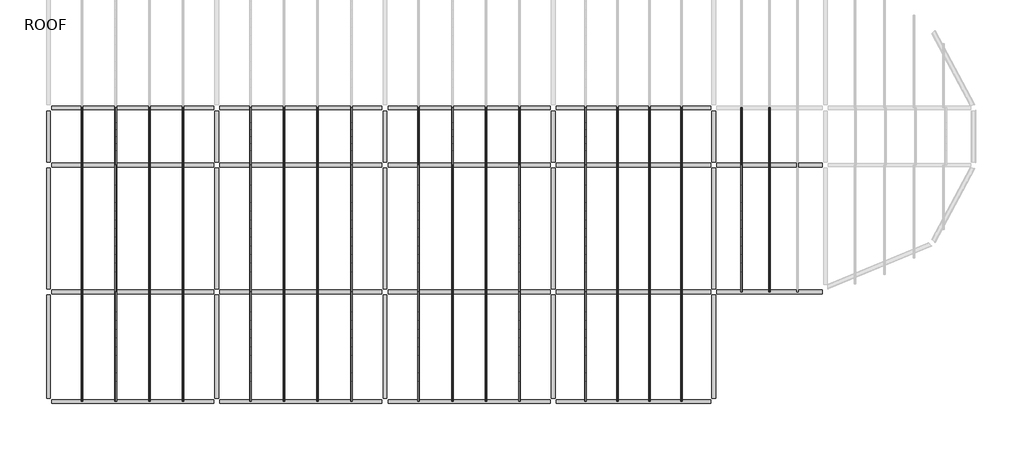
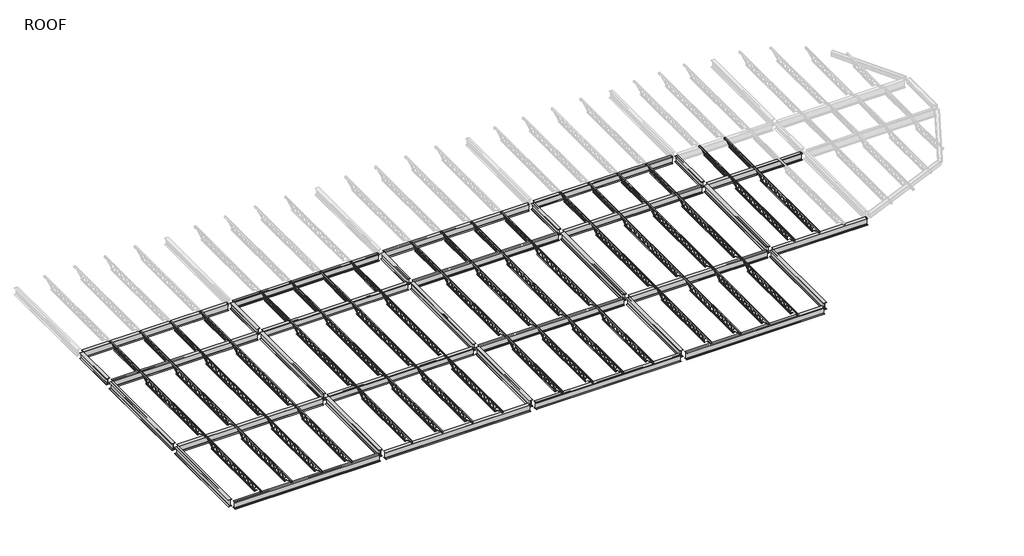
# One storey, part 1 of 2: 85 beams.
"""IFC4 building model written with IfcOpenShell, lengths in millimetres."""

from ifc_helpers import new_model, si_unit, origin, place, context, project, spatial, transform, mapped, element, save
from components import k_series_bar_joist_angle_web_10k1_3bfde562, k_series_bar_joist_angle_web_14k6_e2c2b74f, k_series_bar_joist_angle_web_14k6_a55206d5, w_shapes_w12x26_ac08b433, w_shapes_w14x30_2b5df836, w_shapes_w14x30_7cdcd298, w_shapes_w14x30_aa676985, w_shapes_w14x30_0fa609c7, w_shapes_w14x30_0dffa004

model = new_model("IFC4")

# Units and contexts
model_context = context("Model", 3, world=origin())
ifc_project = project(units=[si_unit("LENGTHUNIT", "METRE", prefix="MILLI")], contexts=[model_context])

# Site, building, storey
site = spatial("IfcSite", under=ifc_project)
building = spatial("IfcBuilding", under=site)
storey = spatial("IfcBuildingStorey", under=building, Name="ROOF", Elevation=18288.0)

# Beams
placement = place(None, origin())
k_series_bar_joist_angle_web_10k1_shape = k_series_bar_joist_angle_web_10k1_3bfde562(model_context)
element("IfcBeam", 1, ObjectType="K-Series Bar Joist-Angle Web : 10K1", at=placement, inside=storey, context=model_context, shape_type="MappedRepresentation", body=[
    mapped(k_series_bar_joist_angle_web_10k1_shape, transform((-11146.6535279, -2505.8101681, 18161.0), x_axis=(0.0, -1.0, 0.0), y_axis=(1.0, 0.0, 0.0), z_axis=(0.0, 0.0, 1.0))),
])
element("IfcBeam", 2, ObjectType="K-Series Bar Joist-Angle Web : 10K1", at=placement, inside=storey, context=model_context, shape_type="MappedRepresentation", body=[
    mapped(k_series_bar_joist_angle_web_10k1_shape, transform((-12670.6535279, -2505.8101681, 18161.0), x_axis=(0.0, -1.0, 0.0), y_axis=(1.0, 0.0, 0.0), z_axis=(0.0, 0.0, 1.0))),
])
element("IfcBeam", 3, ObjectType="K-Series Bar Joist-Angle Web : 10K1", at=placement, inside=storey, context=model_context, shape_type="MappedRepresentation", body=[
    mapped(k_series_bar_joist_angle_web_10k1_shape, transform((-14194.6535279, -2505.8101681, 18161.0), x_axis=(0.0, -1.0, 0.0), y_axis=(1.0, 0.0, 0.0), z_axis=(0.0, 0.0, 1.0))),
])
element("IfcBeam", 4, ObjectType="K-Series Bar Joist-Angle Web : 10K1", at=placement, inside=storey, context=model_context, shape_type="MappedRepresentation", body=[
    mapped(k_series_bar_joist_angle_web_10k1_shape, transform((-15718.6535279, -2505.8101681, 18161.0), x_axis=(0.0, -1.0, 0.0), y_axis=(1.0, 0.0, 0.0), z_axis=(0.0, 0.0, 1.0))),
])
element("IfcBeam", 5, ObjectType="K-Series Bar Joist-Angle Web : 10K1", at=placement, inside=storey, context=model_context, shape_type="MappedRepresentation", body=[
    mapped(k_series_bar_joist_angle_web_10k1_shape, transform((-3526.6535279, -2505.8101681, 18161.0), x_axis=(0.0, -1.0, 0.0), y_axis=(1.0, 0.0, 0.0), z_axis=(0.0, 0.0, 1.0))),
])
element("IfcBeam", 6, ObjectType="K-Series Bar Joist-Angle Web : 10K1", at=placement, inside=storey, context=model_context, shape_type="MappedRepresentation", body=[
    mapped(k_series_bar_joist_angle_web_10k1_shape, transform((-5050.6535279, -2505.8101681, 18161.0), x_axis=(0.0, -1.0, 0.0), y_axis=(1.0, 0.0, 0.0), z_axis=(0.0, 0.0, 1.0))),
])
element("IfcBeam", 7, ObjectType="K-Series Bar Joist-Angle Web : 10K1", at=placement, inside=storey, context=model_context, shape_type="MappedRepresentation", body=[
    mapped(k_series_bar_joist_angle_web_10k1_shape, transform((-6574.6535279, -2505.8101681, 18161.0), x_axis=(0.0, -1.0, 0.0), y_axis=(1.0, 0.0, 0.0), z_axis=(0.0, 0.0, 1.0))),
])
element("IfcBeam", 8, ObjectType="K-Series Bar Joist-Angle Web : 10K1", at=placement, inside=storey, context=model_context, shape_type="MappedRepresentation", body=[
    mapped(k_series_bar_joist_angle_web_10k1_shape, transform((-8098.6535279, -2505.8101681, 18161.0), x_axis=(0.0, -1.0, 0.0), y_axis=(1.0, 0.0, 0.0), z_axis=(0.0, 0.0, 1.0))),
])
element("IfcBeam", 9, ObjectType="K-Series Bar Joist-Angle Web : 10K1", at=placement, inside=storey, context=model_context, shape_type="MappedRepresentation", body=[
    mapped(k_series_bar_joist_angle_web_10k1_shape, transform((4093.3464721, -2505.8101681, 18161.0), x_axis=(0.0, -1.0, 0.0), y_axis=(1.0, 0.0, 0.0), z_axis=(0.0, 0.0, 1.0))),
])
element("IfcBeam", 10, ObjectType="K-Series Bar Joist-Angle Web : 10K1", at=placement, inside=storey, context=model_context, shape_type="MappedRepresentation", body=[
    mapped(k_series_bar_joist_angle_web_10k1_shape, transform((2569.3464721, -2505.8101681, 18161.0), x_axis=(0.0, -1.0, 0.0), y_axis=(1.0, 0.0, 0.0), z_axis=(0.0, 0.0, 1.0))),
])
element("IfcBeam", 11, ObjectType="K-Series Bar Joist-Angle Web : 10K1", at=placement, inside=storey, context=model_context, shape_type="MappedRepresentation", body=[
    mapped(k_series_bar_joist_angle_web_10k1_shape, transform((1045.3464721, -2505.8101681, 18161.0), x_axis=(0.0, -1.0, 0.0), y_axis=(1.0, 0.0, 0.0), z_axis=(0.0, 0.0, 1.0))),
])
element("IfcBeam", 12, ObjectType="K-Series Bar Joist-Angle Web : 10K1", at=placement, inside=storey, context=model_context, shape_type="MappedRepresentation", body=[
    mapped(k_series_bar_joist_angle_web_10k1_shape, transform((-478.6535279, -2505.8101681, 18161.0), x_axis=(0.0, -1.0, 0.0), y_axis=(1.0, 0.0, 0.0), z_axis=(0.0, 0.0, 1.0))),
])
element("IfcBeam", 13, ObjectType="K-Series Bar Joist-Angle Web : 10K1", at=placement, inside=storey, context=model_context, shape_type="MappedRepresentation", body=[
    mapped(k_series_bar_joist_angle_web_10k1_shape, transform((11431.4064721, -2505.8101681, 18161.0), x_axis=(0.0, -1.0, 0.0), y_axis=(1.0, 0.0, 0.0), z_axis=(0.0, 0.0, 1.0))),
])
element("IfcBeam", 14, ObjectType="K-Series Bar Joist-Angle Web : 10K1", at=placement, inside=storey, context=model_context, shape_type="MappedRepresentation", body=[
    mapped(k_series_bar_joist_angle_web_10k1_shape, transform((9977.8914721, -2505.8101681, 18161.0), x_axis=(0.0, -1.0, 0.0), y_axis=(1.0, 0.0, 0.0), z_axis=(0.0, 0.0, 1.0))),
])
element("IfcBeam", 15, ObjectType="K-Series Bar Joist-Angle Web : 10K1", at=placement, inside=storey, context=model_context, shape_type="MappedRepresentation", body=[
    mapped(k_series_bar_joist_angle_web_10k1_shape, transform((8524.3764721, -2505.8101681, 18161.0), x_axis=(0.0, -1.0, 0.0), y_axis=(1.0, 0.0, 0.0), z_axis=(0.0, 0.0, 1.0))),
])
element("IfcBeam", 16, ObjectType="K-Series Bar Joist-Angle Web : 10K1", at=placement, inside=storey, context=model_context, shape_type="MappedRepresentation", body=[
    mapped(k_series_bar_joist_angle_web_10k1_shape, transform((7070.8614721, -2505.8101681, 18161.0), x_axis=(0.0, -1.0, 0.0), y_axis=(1.0, 0.0, 0.0), z_axis=(0.0, 0.0, 1.0))),
])
element("IfcBeam", 17, ObjectType="K-Series Bar Joist-Angle Web : 10K1", at=placement, inside=storey, context=model_context, shape_type="MappedRepresentation", body=[
    mapped(k_series_bar_joist_angle_web_10k1_shape, transform((15411.4277221, -2505.8101681, 18161.0), x_axis=(0.0, -1.0, 0.0), y_axis=(1.0, 0.0, 0.0), z_axis=(0.0, 0.0, 1.0))),
])
element("IfcBeam", 18, ObjectType="K-Series Bar Joist-Angle Web : 10K1", at=placement, inside=storey, context=model_context, shape_type="MappedRepresentation", body=[
    mapped(k_series_bar_joist_angle_web_10k1_shape, transform((14148.1745971, -2505.8101681, 18161.0), x_axis=(0.0, -1.0, 0.0), y_axis=(1.0, 0.0, 0.0), z_axis=(0.0, 0.0, 1.0))),
])
k_series_bar_joist_angle_web_14k6_shape = k_series_bar_joist_angle_web_14k6_e2c2b74f(model_context)
element("IfcBeam", 19, ObjectType="K-Series Bar Joist-Angle Web : 14K6", at=placement, inside=storey, context=model_context, shape_type="MappedRepresentation", body=[
    mapped(k_series_bar_joist_angle_web_14k6_shape, transform((-11146.6535279, -12033.9851681, 18110.2), x_axis=(0.0, -1.0, 0.0), y_axis=(1.0, 0.0, 0.0), z_axis=(0.0, 0.0, 1.0))),
])
element("IfcBeam", 20, ObjectType="K-Series Bar Joist-Angle Web : 14K6", at=placement, inside=storey, context=model_context, shape_type="MappedRepresentation", body=[
    mapped(k_series_bar_joist_angle_web_14k6_shape, transform((-12670.6535279, -12033.9851681, 18110.2), x_axis=(0.0, -1.0, 0.0), y_axis=(1.0, 0.0, 0.0), z_axis=(0.0, 0.0, 1.0))),
])
element("IfcBeam", 21, ObjectType="K-Series Bar Joist-Angle Web : 14K6", at=placement, inside=storey, context=model_context, shape_type="MappedRepresentation", body=[
    mapped(k_series_bar_joist_angle_web_14k6_shape, transform((-14194.6535279, -12033.9851681, 18110.2), x_axis=(0.0, -1.0, 0.0), y_axis=(1.0, 0.0, 0.0), z_axis=(0.0, 0.0, 1.0))),
])
element("IfcBeam", 22, ObjectType="K-Series Bar Joist-Angle Web : 14K6", at=placement, inside=storey, context=model_context, shape_type="MappedRepresentation", body=[
    mapped(k_series_bar_joist_angle_web_14k6_shape, transform((-15718.6535279, -12033.9851681, 18110.2), x_axis=(0.0, -1.0, 0.0), y_axis=(1.0, 0.0, 0.0), z_axis=(0.0, 0.0, 1.0))),
])
element("IfcBeam", 23, ObjectType="K-Series Bar Joist-Angle Web : 14K6", at=placement, inside=storey, context=model_context, shape_type="MappedRepresentation", body=[
    mapped(k_series_bar_joist_angle_web_14k6_shape, transform((-3526.6535279, -12033.9851681, 18110.2), x_axis=(0.0, -1.0, 0.0), y_axis=(1.0, 0.0, 0.0), z_axis=(0.0, 0.0, 1.0))),
])
element("IfcBeam", 24, ObjectType="K-Series Bar Joist-Angle Web : 14K6", at=placement, inside=storey, context=model_context, shape_type="MappedRepresentation", body=[
    mapped(k_series_bar_joist_angle_web_14k6_shape, transform((-5050.6535279, -12033.9851681, 18110.2), x_axis=(0.0, -1.0, 0.0), y_axis=(1.0, 0.0, 0.0), z_axis=(0.0, 0.0, 1.0))),
])
element("IfcBeam", 25, ObjectType="K-Series Bar Joist-Angle Web : 14K6", at=placement, inside=storey, context=model_context, shape_type="MappedRepresentation", body=[
    mapped(k_series_bar_joist_angle_web_14k6_shape, transform((-6574.6535279, -12033.9851681, 18110.2), x_axis=(0.0, -1.0, 0.0), y_axis=(1.0, 0.0, 0.0), z_axis=(0.0, 0.0, 1.0))),
])
element("IfcBeam", 26, ObjectType="K-Series Bar Joist-Angle Web : 14K6", at=placement, inside=storey, context=model_context, shape_type="MappedRepresentation", body=[
    mapped(k_series_bar_joist_angle_web_14k6_shape, transform((-8098.6535279, -12033.9851681, 18110.2), x_axis=(0.0, -1.0, 0.0), y_axis=(1.0, 0.0, 0.0), z_axis=(0.0, 0.0, 1.0))),
])
element("IfcBeam", 27, ObjectType="K-Series Bar Joist-Angle Web : 14K6", at=placement, inside=storey, context=model_context, shape_type="MappedRepresentation", body=[
    mapped(k_series_bar_joist_angle_web_14k6_shape, transform((-478.6535279, -12033.9851681, 18110.2), x_axis=(0.0, 1.0, 0.0), y_axis=(-1.0, 0.0, 0.0), z_axis=(0.0, 0.0, 1.0))),
])
element("IfcBeam", 28, ObjectType="K-Series Bar Joist-Angle Web : 14K6", at=placement, inside=storey, context=model_context, shape_type="MappedRepresentation", body=[
    mapped(k_series_bar_joist_angle_web_14k6_shape, transform((1045.3464721, -12033.9851681, 18110.2), x_axis=(0.0, 1.0, 0.0), y_axis=(-1.0, 0.0, 0.0), z_axis=(0.0, 0.0, 1.0))),
])
element("IfcBeam", 29, ObjectType="K-Series Bar Joist-Angle Web : 14K6", at=placement, inside=storey, context=model_context, shape_type="MappedRepresentation", body=[
    mapped(k_series_bar_joist_angle_web_14k6_shape, transform((2569.3464721, -12033.9851681, 18110.2), x_axis=(0.0, 1.0, 0.0), y_axis=(-1.0, 0.0, 0.0), z_axis=(0.0, 0.0, 1.0))),
])
element("IfcBeam", 30, ObjectType="K-Series Bar Joist-Angle Web : 14K6", at=placement, inside=storey, context=model_context, shape_type="MappedRepresentation", body=[
    mapped(k_series_bar_joist_angle_web_14k6_shape, transform((4093.3464721, -12033.9851681, 18110.2), x_axis=(0.0, 1.0, 0.0), y_axis=(-1.0, 0.0, 0.0), z_axis=(0.0, 0.0, 1.0))),
])
element("IfcBeam", 31, ObjectType="K-Series Bar Joist-Angle Web : 14K6", at=placement, inside=storey, context=model_context, shape_type="MappedRepresentation", body=[
    mapped(k_series_bar_joist_angle_web_14k6_shape, transform((11431.4064721, -12033.9851681, 18110.2), x_axis=(0.0, -1.0, 0.0), y_axis=(1.0, 0.0, 0.0), z_axis=(0.0, 0.0, 1.0))),
])
element("IfcBeam", 32, ObjectType="K-Series Bar Joist-Angle Web : 14K6", at=placement, inside=storey, context=model_context, shape_type="MappedRepresentation", body=[
    mapped(k_series_bar_joist_angle_web_14k6_shape, transform((9977.8914721, -12033.9851681, 18110.2), x_axis=(0.0, -1.0, 0.0), y_axis=(1.0, 0.0, 0.0), z_axis=(0.0, 0.0, 1.0))),
])
element("IfcBeam", 33, ObjectType="K-Series Bar Joist-Angle Web : 14K6", at=placement, inside=storey, context=model_context, shape_type="MappedRepresentation", body=[
    mapped(k_series_bar_joist_angle_web_14k6_shape, transform((8524.3764721, -12033.9851681, 18110.2), x_axis=(0.0, -1.0, 0.0), y_axis=(1.0, 0.0, 0.0), z_axis=(0.0, 0.0, 1.0))),
])
element("IfcBeam", 34, ObjectType="K-Series Bar Joist-Angle Web : 14K6", at=placement, inside=storey, context=model_context, shape_type="MappedRepresentation", body=[
    mapped(k_series_bar_joist_angle_web_14k6_shape, transform((7070.8614721, -12033.9851681, 18110.2), x_axis=(0.0, -1.0, 0.0), y_axis=(1.0, 0.0, 0.0), z_axis=(0.0, 0.0, 1.0))),
])
k_series_bar_joist_angle_web_14k6_2_shape = k_series_bar_joist_angle_web_14k6_a55206d5(model_context)
element("IfcBeam", 35, ObjectType="K-Series Bar Joist-Angle Web : 14K6", at=placement, inside=storey, context=model_context, shape_type="MappedRepresentation", body=[
    mapped(k_series_bar_joist_angle_web_14k6_2_shape, transform((11431.4064721, -6674.5851681, 18110.2), x_axis=(0.0, -1.0, 0.0), y_axis=(1.0, 0.0, 0.0), z_axis=(0.0, 0.0, 1.0))),
])
element("IfcBeam", 36, ObjectType="K-Series Bar Joist-Angle Web : 14K6", at=placement, inside=storey, context=model_context, shape_type="MappedRepresentation", body=[
    mapped(k_series_bar_joist_angle_web_14k6_2_shape, transform((9977.8914721, -6674.5851681, 18110.2), x_axis=(0.0, -1.0, 0.0), y_axis=(1.0, 0.0, 0.0), z_axis=(0.0, 0.0, 1.0))),
])
element("IfcBeam", 37, ObjectType="K-Series Bar Joist-Angle Web : 14K6", at=placement, inside=storey, context=model_context, shape_type="MappedRepresentation", body=[
    mapped(k_series_bar_joist_angle_web_14k6_2_shape, transform((8524.3764721, -6674.5851681, 18110.2), x_axis=(0.0, -1.0, 0.0), y_axis=(1.0, 0.0, 0.0), z_axis=(0.0, 0.0, 1.0))),
])
element("IfcBeam", 38, ObjectType="K-Series Bar Joist-Angle Web : 14K6", at=placement, inside=storey, context=model_context, shape_type="MappedRepresentation", body=[
    mapped(k_series_bar_joist_angle_web_14k6_2_shape, transform((7070.8614721, -6674.5851681, 18110.2), x_axis=(0.0, -1.0, 0.0), y_axis=(1.0, 0.0, 0.0), z_axis=(0.0, 0.0, 1.0))),
])
element("IfcBeam", 39, ObjectType="K-Series Bar Joist-Angle Web : 14K6", at=placement, inside=storey, context=model_context, shape_type="MappedRepresentation", body=[
    mapped(k_series_bar_joist_angle_web_14k6_2_shape, transform((-478.6535279, -6674.5851681, 18110.2), x_axis=(0.0, 1.0, 0.0), y_axis=(-1.0, 0.0, 0.0), z_axis=(0.0, 0.0, 1.0))),
])
element("IfcBeam", 40, ObjectType="K-Series Bar Joist-Angle Web : 14K6", at=placement, inside=storey, context=model_context, shape_type="MappedRepresentation", body=[
    mapped(k_series_bar_joist_angle_web_14k6_2_shape, transform((1045.3464721, -6674.5851681, 18110.2), x_axis=(0.0, 1.0, 0.0), y_axis=(-1.0, 0.0, 0.0), z_axis=(0.0, 0.0, 1.0))),
])
element("IfcBeam", 41, ObjectType="K-Series Bar Joist-Angle Web : 14K6", at=placement, inside=storey, context=model_context, shape_type="MappedRepresentation", body=[
    mapped(k_series_bar_joist_angle_web_14k6_2_shape, transform((2569.3464721, -6674.5851681, 18110.2), x_axis=(0.0, 1.0, 0.0), y_axis=(-1.0, 0.0, 0.0), z_axis=(0.0, 0.0, 1.0))),
])
element("IfcBeam", 42, ObjectType="K-Series Bar Joist-Angle Web : 14K6", at=placement, inside=storey, context=model_context, shape_type="MappedRepresentation", body=[
    mapped(k_series_bar_joist_angle_web_14k6_2_shape, transform((4093.3464721, -6674.5851681, 18110.2), x_axis=(0.0, 1.0, 0.0), y_axis=(-1.0, 0.0, 0.0), z_axis=(0.0, 0.0, 1.0))),
])
element("IfcBeam", 43, ObjectType="K-Series Bar Joist-Angle Web : 14K6", at=placement, inside=storey, context=model_context, shape_type="MappedRepresentation", body=[
    mapped(k_series_bar_joist_angle_web_14k6_2_shape, transform((-3526.6535279, -6674.5851681, 18110.2), x_axis=(0.0, -1.0, 0.0), y_axis=(1.0, 0.0, 0.0), z_axis=(0.0, 0.0, 1.0))),
])
element("IfcBeam", 44, ObjectType="K-Series Bar Joist-Angle Web : 14K6", at=placement, inside=storey, context=model_context, shape_type="MappedRepresentation", body=[
    mapped(k_series_bar_joist_angle_web_14k6_2_shape, transform((-5050.6535279, -6674.5851681, 18110.2), x_axis=(0.0, -1.0, 0.0), y_axis=(1.0, 0.0, 0.0), z_axis=(0.0, 0.0, 1.0))),
])
element("IfcBeam", 45, ObjectType="K-Series Bar Joist-Angle Web : 14K6", at=placement, inside=storey, context=model_context, shape_type="MappedRepresentation", body=[
    mapped(k_series_bar_joist_angle_web_14k6_2_shape, transform((-6574.6535279, -6674.5851681, 18110.2), x_axis=(0.0, -1.0, 0.0), y_axis=(1.0, 0.0, 0.0), z_axis=(0.0, 0.0, 1.0))),
])
element("IfcBeam", 46, ObjectType="K-Series Bar Joist-Angle Web : 14K6", at=placement, inside=storey, context=model_context, shape_type="MappedRepresentation", body=[
    mapped(k_series_bar_joist_angle_web_14k6_2_shape, transform((-8098.6535279, -6674.5851681, 18110.2), x_axis=(0.0, -1.0, 0.0), y_axis=(1.0, 0.0, 0.0), z_axis=(0.0, 0.0, 1.0))),
])
element("IfcBeam", 47, ObjectType="K-Series Bar Joist-Angle Web : 14K6", at=placement, inside=storey, context=model_context, shape_type="MappedRepresentation", body=[
    mapped(k_series_bar_joist_angle_web_14k6_2_shape, transform((-15718.6535279, -6674.5851681, 18110.2), x_axis=(0.0, 1.0, 0.0), y_axis=(-1.0, 0.0, 0.0), z_axis=(0.0, 0.0, 1.0))),
])
element("IfcBeam", 48, ObjectType="K-Series Bar Joist-Angle Web : 14K6", at=placement, inside=storey, context=model_context, shape_type="MappedRepresentation", body=[
    mapped(k_series_bar_joist_angle_web_14k6_2_shape, transform((-14194.6535279, -6674.5851681, 18110.2), x_axis=(0.0, 1.0, 0.0), y_axis=(-1.0, 0.0, 0.0), z_axis=(0.0, 0.0, 1.0))),
])
element("IfcBeam", 49, ObjectType="K-Series Bar Joist-Angle Web : 14K6", at=placement, inside=storey, context=model_context, shape_type="MappedRepresentation", body=[
    mapped(k_series_bar_joist_angle_web_14k6_2_shape, transform((-12670.6535279, -6674.5851681, 18110.2), x_axis=(0.0, 1.0, 0.0), y_axis=(-1.0, 0.0, 0.0), z_axis=(0.0, 0.0, 1.0))),
])
element("IfcBeam", 50, ObjectType="K-Series Bar Joist-Angle Web : 14K6", at=placement, inside=storey, context=model_context, shape_type="MappedRepresentation", body=[
    mapped(k_series_bar_joist_angle_web_14k6_2_shape, transform((-11146.6535279, -6674.5851681, 18110.2), x_axis=(0.0, 1.0, 0.0), y_axis=(-1.0, 0.0, 0.0), z_axis=(0.0, 0.0, 1.0))),
])
element("IfcBeam", 51, ObjectType="K-Series Bar Joist-Angle Web : 14K6", at=placement, inside=storey, context=model_context, shape_type="MappedRepresentation", body=[
    mapped(k_series_bar_joist_angle_web_14k6_2_shape, transform((14148.1745971, -6674.5851681, 18110.2), x_axis=(0.0, 1.0, 0.0), y_axis=(-1.0, 0.0, 0.0), z_axis=(0.0, 0.0, 1.0))),
])
element("IfcBeam", 52, ObjectType="K-Series Bar Joist-Angle Web : 14K6", at=placement, inside=storey, context=model_context, shape_type="MappedRepresentation", body=[
    mapped(k_series_bar_joist_angle_web_14k6_2_shape, transform((15411.4277221, -6674.5851681, 18110.2), x_axis=(0.0, 1.0, 0.0), y_axis=(-1.0, 0.0, 0.0), z_axis=(0.0, 0.0, 1.0))),
])
w_shapes_w12x26_shape = w_shapes_w12x26_ac08b433(model_context)
element("IfcBeam", 53, ObjectType="W Shapes : W12X26", at=placement, inside=storey, context=model_context, shape_type="MappedRepresentation", body=[
    mapped(w_shapes_w12x26_shape, transform((-17242.6535279, -2505.8101681, 18133.06), x_axis=(0.0, -1.0, 0.0), y_axis=(1.0, 0.0, 0.0), z_axis=(0.0, 0.0, 1.0))),
])
element("IfcBeam", 54, ObjectType="W Shapes : W12X26", at=placement, inside=storey, context=model_context, shape_type="MappedRepresentation", body=[
    mapped(w_shapes_w12x26_shape, transform((-9622.6535279, -2505.8101681, 18133.06), x_axis=(0.0, -1.0, 0.0), y_axis=(1.0, 0.0, 0.0), z_axis=(0.0, 0.0, 1.0))),
])
element("IfcBeam", 55, ObjectType="W Shapes : W12X26", at=placement, inside=storey, context=model_context, shape_type="MappedRepresentation", body=[
    mapped(w_shapes_w12x26_shape, transform((-2002.6535279, -2505.8101681, 18133.06), x_axis=(0.0, -1.0, 0.0), y_axis=(1.0, 0.0, 0.0), z_axis=(0.0, 0.0, 1.0))),
])
element("IfcBeam", 56, ObjectType="W Shapes : W12X26", at=placement, inside=storey, context=model_context, shape_type="MappedRepresentation", body=[
    mapped(w_shapes_w12x26_shape, transform((5617.3464721, -2505.8101681, 18133.06), x_axis=(0.0, -1.0, 0.0), y_axis=(1.0, 0.0, 0.0), z_axis=(0.0, 0.0, 1.0))),
])
element("IfcBeam", 57, ObjectType="W Shapes : W12X26", at=placement, inside=storey, context=model_context, shape_type="MappedRepresentation", body=[
    mapped(w_shapes_w12x26_shape, transform((12884.9214721, -2505.8101681, 18133.06), x_axis=(0.0, -1.0, 0.0), y_axis=(1.0, 0.0, 0.0), z_axis=(0.0, 0.0, 1.0))),
])
w_shapes_w14x30_shape = w_shapes_w14x30_2b5df836(model_context)
element("IfcBeam", 58, ObjectType="W Shapes : W14X30", at=placement, inside=storey, context=model_context, shape_type="MappedRepresentation", body=[
    mapped(w_shapes_w14x30_shape, transform((1807.3464721, -1208.8226681, 18049.24), x_axis=(-1.0, 0.0, 0.0), y_axis=(0.0, -1.0, 0.0), z_axis=(0.0, 0.0, 1.0))),
])
element("IfcBeam", 59, ObjectType="W Shapes : W14X30", at=placement, inside=storey, context=model_context, shape_type="MappedRepresentation", body=[
    mapped(w_shapes_w14x30_shape, transform((-5812.6535279, -1208.8226681, 18049.24), x_axis=(-1.0, 0.0, 0.0), y_axis=(0.0, -1.0, 0.0), z_axis=(0.0, 0.0, 1.0))),
])
element("IfcBeam", 60, ObjectType="W Shapes : W14X30", at=placement, inside=storey, context=model_context, shape_type="MappedRepresentation", body=[
    mapped(w_shapes_w14x30_shape, transform((-13432.6535279, -1208.8226681, 18049.24), x_axis=(-1.0, 0.0, 0.0), y_axis=(0.0, -1.0, 0.0), z_axis=(0.0, 0.0, 1.0))),
])
element("IfcBeam", 61, ObjectType="W Shapes : W14X30", at=placement, inside=storey, context=model_context, shape_type="MappedRepresentation", body=[
    mapped(w_shapes_w14x30_shape, transform((-13432.6535279, -3802.7976681, 18049.24), x_axis=(1.0, 0.0, 0.0), y_axis=(0.0, 1.0, 0.0), z_axis=(0.0, 0.0, 1.0))),
])
element("IfcBeam", 62, ObjectType="W Shapes : W14X30", at=placement, inside=storey, context=model_context, shape_type="MappedRepresentation", body=[
    mapped(w_shapes_w14x30_shape, transform((-5812.6535279, -3802.7976681, 18049.24), x_axis=(1.0, 0.0, 0.0), y_axis=(0.0, 1.0, 0.0), z_axis=(0.0, 0.0, 1.0))),
])
element("IfcBeam", 63, ObjectType="W Shapes : W14X30", at=placement, inside=storey, context=model_context, shape_type="MappedRepresentation", body=[
    mapped(w_shapes_w14x30_shape, transform((1807.3464721, -3802.7976681, 18049.24), x_axis=(1.0, 0.0, 0.0), y_axis=(0.0, 1.0, 0.0), z_axis=(0.0, 0.0, 1.0))),
])
element("IfcBeam", 64, ObjectType="W Shapes : W14X30", at=placement, inside=storey, context=model_context, shape_type="MappedRepresentation", body=[
    mapped(w_shapes_w14x30_shape, transform((1807.3464721, -9546.3726681, 18049.24), x_axis=(-1.0, 0.0, 0.0), y_axis=(0.0, -1.0, 0.0), z_axis=(0.0, 0.0, 1.0))),
])
element("IfcBeam", 65, ObjectType="W Shapes : W14X30", at=placement, inside=storey, context=model_context, shape_type="MappedRepresentation", body=[
    mapped(w_shapes_w14x30_shape, transform((-5812.6535279, -9546.3726681, 18049.24), x_axis=(-1.0, 0.0, 0.0), y_axis=(0.0, -1.0, 0.0), z_axis=(0.0, 0.0, 1.0))),
])
element("IfcBeam", 66, ObjectType="W Shapes : W14X30", at=placement, inside=storey, context=model_context, shape_type="MappedRepresentation", body=[
    mapped(w_shapes_w14x30_shape, transform((-13432.6535279, -9546.3726681, 18049.24), x_axis=(-1.0, 0.0, 0.0), y_axis=(0.0, -1.0, 0.0), z_axis=(0.0, 0.0, 1.0))),
])
element("IfcBeam", 67, ObjectType="W Shapes : W14X30", at=placement, inside=storey, context=model_context, shape_type="MappedRepresentation", body=[
    mapped(w_shapes_w14x30_shape, transform((-13432.6535279, -14521.5976681, 18049.24), x_axis=(1.0, 0.0, 0.0), y_axis=(0.0, 1.0, 0.0), z_axis=(0.0, 0.0, 1.0))),
])
element("IfcBeam", 68, ObjectType="W Shapes : W14X30", at=placement, inside=storey, context=model_context, shape_type="MappedRepresentation", body=[
    mapped(w_shapes_w14x30_shape, transform((-5812.6535279, -14521.5976681, 18049.24), x_axis=(1.0, 0.0, 0.0), y_axis=(0.0, 1.0, 0.0), z_axis=(0.0, 0.0, 1.0))),
])
element("IfcBeam", 69, ObjectType="W Shapes : W14X30", at=placement, inside=storey, context=model_context, shape_type="MappedRepresentation", body=[
    mapped(w_shapes_w14x30_shape, transform((1807.3464721, -14521.5976681, 18049.24), x_axis=(1.0, 0.0, 0.0), y_axis=(0.0, 1.0, 0.0), z_axis=(0.0, 0.0, 1.0))),
])
w_shapes_w14x30_2_shape = w_shapes_w14x30_7cdcd298(model_context)
element("IfcBeam", 70, ObjectType="W Shapes : W14X30", at=placement, inside=storey, context=model_context, shape_type="MappedRepresentation", body=[
    mapped(w_shapes_w14x30_2_shape, transform((9251.1339721, -1208.8226681, 18049.24), x_axis=(-1.0, 0.0, 0.0), y_axis=(0.0, -1.0, 0.0), z_axis=(0.0, 0.0, 1.0))),
])
element("IfcBeam", 71, ObjectType="W Shapes : W14X30", at=placement, inside=storey, context=model_context, shape_type="MappedRepresentation", body=[
    mapped(w_shapes_w14x30_2_shape, transform((9251.1339721, -3802.7976681, 18049.24), x_axis=(1.0, 0.0, 0.0), y_axis=(0.0, 1.0, 0.0), z_axis=(0.0, 0.0, 1.0))),
])
element("IfcBeam", 72, ObjectType="W Shapes : W14X30", at=placement, inside=storey, context=model_context, shape_type="MappedRepresentation", body=[
    mapped(w_shapes_w14x30_2_shape, transform((9251.1339721, -9546.3726681, 18049.24), x_axis=(-1.0, 0.0, 0.0), y_axis=(0.0, -1.0, 0.0), z_axis=(0.0, 0.0, 1.0))),
])
element("IfcBeam", 73, ObjectType="W Shapes : W14X30", at=placement, inside=storey, context=model_context, shape_type="MappedRepresentation", body=[
    mapped(w_shapes_w14x30_2_shape, transform((9251.1339721, -14521.5976681, 18049.24), x_axis=(1.0, 0.0, 0.0), y_axis=(0.0, 1.0, 0.0), z_axis=(0.0, 0.0, 1.0))),
])
w_shapes_w14x30_3_shape = w_shapes_w14x30_aa676985(model_context)
element("IfcBeam", 74, ObjectType="W Shapes : W14X30", at=placement, inside=storey, context=model_context, shape_type="MappedRepresentation", body=[
    mapped(w_shapes_w14x30_3_shape, transform((-17242.6535279, -12033.9851681, 18112.74), x_axis=(0.0, -1.0, 0.0), y_axis=(1.0, 0.0, 0.0), z_axis=(0.0, 0.0, 1.0))),
])
element("IfcBeam", 75, ObjectType="W Shapes : W14X30", at=placement, inside=storey, context=model_context, shape_type="MappedRepresentation", body=[
    mapped(w_shapes_w14x30_3_shape, transform((12884.9214721, -12033.9851681, 18112.74), x_axis=(0.0, 1.0, 0.0), y_axis=(-1.0, 0.0, 0.0), z_axis=(0.0, 0.0, 1.0))),
])
element("IfcBeam", 76, ObjectType="W Shapes : W14X30", at=placement, inside=storey, context=model_context, shape_type="MappedRepresentation", body=[
    mapped(w_shapes_w14x30_3_shape, transform((-9622.6535279, -12033.9851681, 18112.74), x_axis=(0.0, -1.0, 0.0), y_axis=(1.0, 0.0, 0.0), z_axis=(0.0, 0.0, 1.0))),
])
element("IfcBeam", 77, ObjectType="W Shapes : W14X30", at=placement, inside=storey, context=model_context, shape_type="MappedRepresentation", body=[
    mapped(w_shapes_w14x30_3_shape, transform((-2002.6535279, -12033.9851681, 18112.74), x_axis=(0.0, 1.0, 0.0), y_axis=(-1.0, 0.0, 0.0), z_axis=(0.0, 0.0, 1.0))),
])
element("IfcBeam", 78, ObjectType="W Shapes : W14X30", at=placement, inside=storey, context=model_context, shape_type="MappedRepresentation", body=[
    mapped(w_shapes_w14x30_3_shape, transform((5617.3464721, -12033.9851681, 18112.74), x_axis=(0.0, -1.0, 0.0), y_axis=(1.0, 0.0, 0.0), z_axis=(0.0, 0.0, 1.0))),
])
w_shapes_w14x30_4_shape = w_shapes_w14x30_0fa609c7(model_context)
element("IfcBeam", 79, ObjectType="W Shapes : W14X30", at=placement, inside=storey, context=model_context, shape_type="MappedRepresentation", body=[
    mapped(w_shapes_w14x30_4_shape, transform((15411.4277221, -3802.7976681, 18049.24), x_axis=(1.0, 0.0, 0.0), y_axis=(0.0, 1.0, 0.0), z_axis=(0.0, 0.0, 1.0))),
])
element("IfcBeam", 80, ObjectType="W Shapes : W14X30", at=placement, inside=storey, context=model_context, shape_type="MappedRepresentation", body=[
    mapped(w_shapes_w14x30_4_shape, transform((15411.4277221, -9546.3726681, 18049.24), x_axis=(-1.0, 0.0, 0.0), y_axis=(0.0, -1.0, 0.0), z_axis=(0.0, 0.0, 1.0))),
])
w_shapes_w14x30_5_shape = w_shapes_w14x30_0dffa004(model_context)
element("IfcBeam", 81, ObjectType="W Shapes : W14X30", at=placement, inside=storey, context=model_context, shape_type="MappedRepresentation", body=[
    mapped(w_shapes_w14x30_5_shape, transform((12884.9214721, -6674.5851681, 18112.74), x_axis=(0.0, 1.0, 0.0), y_axis=(-1.0, 0.0, 0.0), z_axis=(0.0, 0.0, 1.0))),
])
element("IfcBeam", 82, ObjectType="W Shapes : W14X30", at=placement, inside=storey, context=model_context, shape_type="MappedRepresentation", body=[
    mapped(w_shapes_w14x30_5_shape, transform((-17242.6535279, -6674.5851681, 18112.74), x_axis=(0.0, 1.0, 0.0), y_axis=(-1.0, 0.0, 0.0), z_axis=(0.0, 0.0, 1.0))),
])
element("IfcBeam", 83, ObjectType="W Shapes : W14X30", at=placement, inside=storey, context=model_context, shape_type="MappedRepresentation", body=[
    mapped(w_shapes_w14x30_5_shape, transform((-9622.6535279, -6674.5851681, 18112.74), x_axis=(0.0, -1.0, 0.0), y_axis=(1.0, 0.0, 0.0), z_axis=(0.0, 0.0, 1.0))),
])
element("IfcBeam", 84, ObjectType="W Shapes : W14X30", at=placement, inside=storey, context=model_context, shape_type="MappedRepresentation", body=[
    mapped(w_shapes_w14x30_5_shape, transform((-2002.6535279, -6674.5851681, 18112.74), x_axis=(0.0, 1.0, 0.0), y_axis=(-1.0, 0.0, 0.0), z_axis=(0.0, 0.0, 1.0))),
])
element("IfcBeam", 85, ObjectType="W Shapes : W14X30", at=placement, inside=storey, context=model_context, shape_type="MappedRepresentation", body=[
    mapped(w_shapes_w14x30_5_shape, transform((5617.3464721, -6674.5851681, 18112.74), x_axis=(0.0, -1.0, 0.0), y_axis=(1.0, 0.0, 0.0), z_axis=(0.0, 0.0, 1.0))),
])

save(model, "model.ifc")
